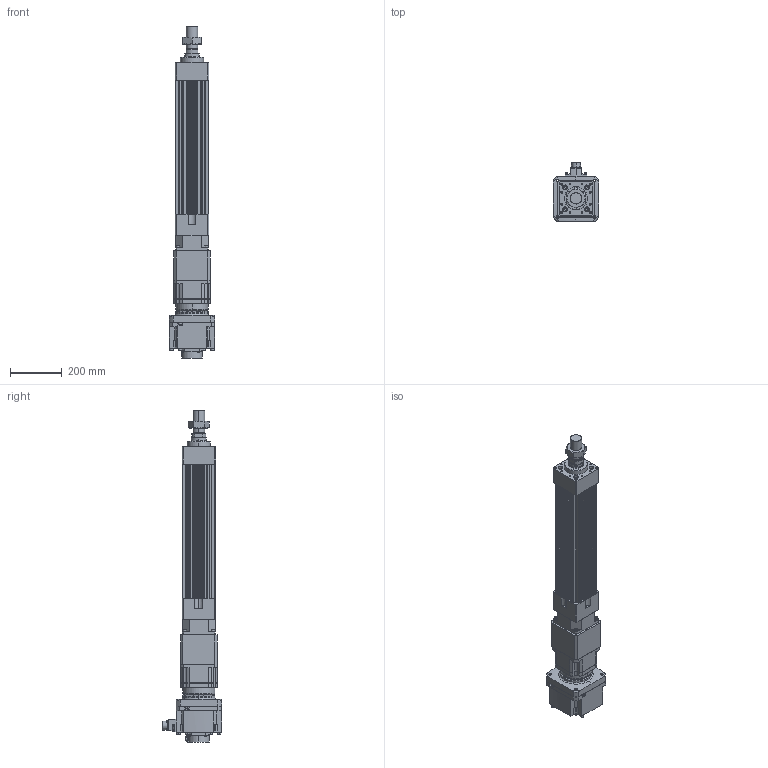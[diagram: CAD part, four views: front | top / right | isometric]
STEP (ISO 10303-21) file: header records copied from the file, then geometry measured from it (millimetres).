
FILE_DESCRIPTION (( 'STEP AP203' ), '1' );
FILE_NAME ('HES130FS(HS)-S300-W020G00-M.STEP', '2023-01-30T11:43:01', ( 'tms' ), ( '' ), 'SwSTEP 2.0', 'SolidWorks 2013', '' );
FILE_SCHEMA (( 'CONFIG_CONTROL_DESIGN' ));
Length unit declared in the file: millimetre
Products named in the file (9): HES130FS(HS)-S300-W020G00-M; M45X1.5P; AB1421; AB142-003[HG-SR352]; HES130-S300-G142; HES130 ROD M ST300; P1301500001; HG-SR202; P0403500801
Assembly tree (8 placements, depth 3):
  HES130FS(HS)-S300-W020G00-M
    HES130-S300-G142
    HES130 ROD M ST300
    M45X1.5P
    AB142-003[HG-SR352]
      AB1421
      P1301500001
      P0403500801
    HG-SR202
Bounding box: 176 x 228.85 x 1287.5 mm (x, y, z)
Volume: 11335993.2 mm3; surface area: 1437738.9 mm2
Topology: 4 solids, 22 shells, 1527 faces, 3928 edges, 2530 vertices
Faces by surface type: cylinder 683, plane 580, cone 182, bspline 76, torus 6
Entity records: 55214 total; most frequent: CARTESIAN_POINT 16756, DIRECTION 8052, ORIENTED_EDGE 7718, EDGE_CURVE 3881, AXIS2_PLACEMENT_3D 3043, VERTEX_POINT 2530, LINE 1966, VECTOR 1966
